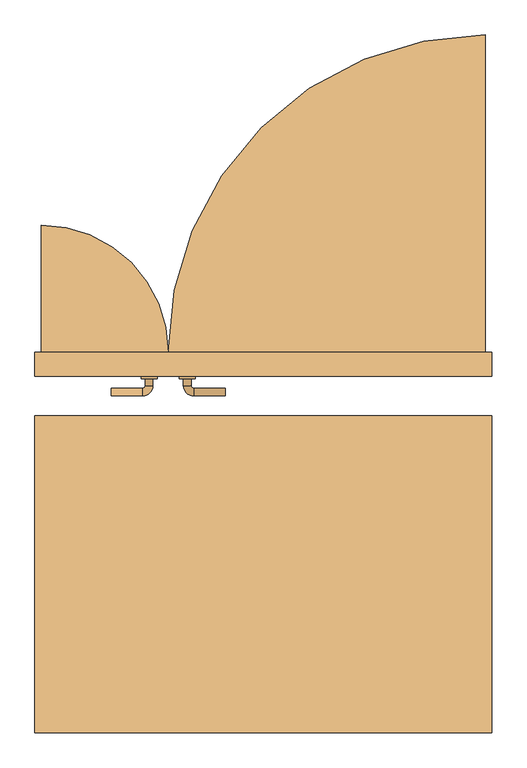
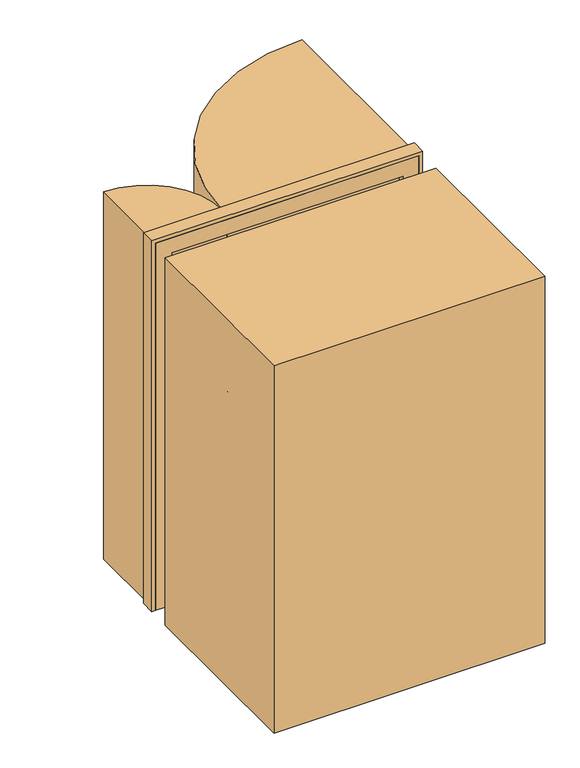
"""IFC4 building model written with IfcOpenShell, lengths in millimetres: door geometry, Дверь_Стальная_Наружная_Двупольная_ГОСТ_31173-2016 : 1410 х 2070(h)_Л_Обычная_с Порогом."""

from ifc_helpers import new_model, si_unit, point, frame, frame_2d, origin, origin_with_axes, place, context, project, spatial, polyline, circle_curve, ellipse_curve, trimmed, segment, composite_curve, outline, extrude, faceted_brep, source, transform, mapped, element, save
from ifc_brep_helpers import plane_surface, cylinder_surface, revolved_surface, advanced_brep


def door_54bb3564(model_context):
    return source(origin(), model_context, "Body", "SolidModel", [
        extrude(outline(composite_curve([segment(trimmed(circle_curve(frame_2d((-700.0, 100.0)), 400.0), [point((-700.0, 500.0))], [point((-300.0, 100.0))], False, "CARTESIAN"), True, "CONTINUOUS"), segment(polyline([(-300.0, 100.0), (-700.0, 100.0), (-700.0, 500.0)]), True, "CONTINUOUS")], self_intersect=False)), origin_with_axes(), (0.0, 0.0, 1.0), 2062.0),
        extrude(outline(composite_curve([segment(polyline([(700.0, 1100.0), (700.0, 100.0), (-300.0, 100.0)]), True, "CONTINUOUS"), segment(trimmed(circle_curve(frame_2d((700.0, 100.0)), 1000.0), [point((-300.0, 100.0))], [point((700.0, 1100.0))], False, "CARTESIAN"), True, "CONTINUOUS")], self_intersect=False)), origin_with_axes(), (0.0, 0.0, 1.0), 2062.0),
        extrude(outline(polyline([(-720.0, -1100.0), (-720.0, -100.0), (720.0, -100.0), (720.0, -1100.0), (-720.0, -1100.0)])), origin_with_axes(), (0.0, 0.0, 1.0), 2062.0),
        advanced_brep(
        [(-480.0, 162.0, 1000.0), (-480.0, 138.0, 1000.0), (-380.0, 138.0, 1000.0), (-380.0, 162.0, 1000.0), (-372.0, 130.0, 1000.0), (-348.0, 130.0, 1000.0), (-348.0, -5.0, 1000.0), (-348.0, 17.0, 1000.0), (-372.0, 17.0, 1000.0), (-372.0, -5.0, 1000.0), (-372.0, 108.0, 1000.0), (-348.0, 108.0, 1000.0), (-380.0, -13.0, 1000.0), (-380.0, -37.0, 1000.0), (-480.0, -37.0, 1000.0), (-480.0, -13.0, 1000.0), (-335.0, 108.0, 1000.0), (-385.0, 108.0, 1000.0), (-335.0, 17.0, 1000.0), (-385.0, 17.0, 1000.0)],
        [
            (0, 1, circle_curve(frame((-480.0, 150.0, 1000.0), z_axis=(-1.0, 0.0, 0.0), x_axis=(0.0, -1.0, 0.0)), 12.0)),
            (1, 0, circle_curve(frame((-480.0, 150.0, 1000.0), z_axis=(-1.0, 0.0, 0.0), x_axis=(0.0, -1.0, 0.0)), 12.0)),
            (1, 2),
            (2, 3, circle_curve(frame((-380.0, 150.0, 1000.0), z_axis=(-1.0, 0.0, 0.0), x_axis=(0.0, -1.0, 0.0)), 12.0)),
            (3, 0),
            (3, 2, circle_curve(frame((-380.0, 150.0, 1000.0), z_axis=(-1.0, 0.0, 0.0), x_axis=(0.0, -1.0, 0.0)), 12.0)),
            (2, 4, circle_curve(frame((-380.0, 130.0, 1000.0), z_axis=(0.0, 0.0, -1.0), x_axis=(0.0, 1.0, 0.0)), 8.0)),
            (4, 5, circle_curve(frame((-360.0, 130.0, 1000.0), z_axis=(0.0, 1.0, 0.0), x_axis=(-1.0, 0.0, 0.0)), 12.0)),
            (5, 3, circle_curve(frame((-380.0, 130.0, 1000.0), z_axis=(0.0, 0.0, 1.0), x_axis=(0.0, 1.0, 0.0)), 32.0)),
            (5, 4, circle_curve(frame((-360.0, 130.0, 1000.0), z_axis=(0.0, 1.0, 0.0), x_axis=(-1.0, 0.0, 0.0)), 12.0)),
            (6, 7),
            (7, 8, circle_curve(frame((-360.0, 17.0, 1000.0), z_axis=(0.0, -1.0, 0.0), x_axis=(-1.0, 0.0, 0.0)), 12.0)),
            (8, 9),
            (9, 6, circle_curve(frame((-360.0, -5.0, 1000.0), z_axis=(0.0, 1.0, 0.0), x_axis=(-1.0, 0.0, 0.0)), 12.0)),
            (4, 10),
            (10, 11, circle_curve(frame((-360.0, 108.0, 1000.0), z_axis=(0.0, 1.0, 0.0), x_axis=(-1.0, 0.0, 0.0)), 12.0)),
            (11, 5),
            (11, 10, circle_curve(frame((-360.0, 108.0, 1000.0), z_axis=(0.0, 1.0, 0.0), x_axis=(-1.0, 0.0, 0.0)), 12.0)),
            (8, 7, circle_curve(frame((-360.0, 17.0, 1000.0), z_axis=(0.0, -1.0, 0.0), x_axis=(-1.0, 0.0, 0.0)), 12.0)),
            (6, 9, circle_curve(frame((-360.0, -5.0, 1000.0), z_axis=(0.0, 1.0, 0.0), x_axis=(-1.0, 0.0, 0.0)), 12.0)),
            (9, 12, circle_curve(frame((-380.0, -5.0, 1000.0), z_axis=(0.0, 0.0, -1.0), x_axis=(1.0, 0.0, 0.0)), 8.0)),
            (12, 13, circle_curve(frame((-380.0, -25.0, 1000.0), z_axis=(1.0, 0.0, 0.0), x_axis=(0.0, 1.0, 0.0)), 12.0)),
            (13, 6, circle_curve(frame((-380.0, -5.0, 1000.0), z_axis=(0.0, 0.0, 1.0), x_axis=(1.0, 0.0, 0.0)), 32.0)),
            (13, 12, circle_curve(frame((-380.0, -25.0, 1000.0), z_axis=(1.0, 0.0, 0.0), x_axis=(0.0, 1.0, 0.0)), 12.0)),
            (14, 15, circle_curve(frame((-480.0, -25.0, 1000.0), z_axis=(-1.0, 0.0, 0.0), x_axis=(0.0, 1.0, 0.0)), 12.0)),
            (15, 14, circle_curve(frame((-480.0, -25.0, 1000.0), z_axis=(-1.0, 0.0, 0.0), x_axis=(0.0, 1.0, 0.0)), 12.0)),
            (12, 15),
            (14, 13),
            (16, 17, circle_curve(frame((-360.0, 108.0, 1000.0), z_axis=(0.0, 1.0, 0.0), x_axis=(-1.0, 0.0, 0.0)), 25.0)),
            (17, 16, circle_curve(frame((-360.0, 108.0, 1000.0), z_axis=(0.0, 1.0, 0.0), x_axis=(-1.0, 0.0, 0.0)), 25.0)),
            (18, 19, circle_curve(frame((-360.0, 17.0, 1000.0), z_axis=(0.0, -1.0, 0.0), x_axis=(-1.0, 0.0, 0.0)), 25.0)),
            (19, 18, circle_curve(frame((-360.0, 17.0, 1000.0), z_axis=(0.0, -1.0, 0.0), x_axis=(-1.0, 0.0, 0.0)), 25.0)),
            (16, 18),
            (19, 17),
        ],
        [
            plane_surface(frame((-480.0, 150.0, 1000.0), z_axis=(-1.0, 0.0, 0.0), x_axis=(0.0, 0.0, 1.0))),
            cylinder_surface(frame((-480.0, 150.0, 1000.0), z_axis=(-1.0, 0.0, 0.0), x_axis=(0.0, -1.0, 0.0)), 12.0),
            revolved_surface(trimmed(ellipse_curve(frame((-380.0, 150.0, 1000.0), z_axis=(1.0, 0.0, 0.0), x_axis=(0.0, -1.0, 0.0)), 12.0, 12.0), [point((-380.0, 162.0, 1000.0))], [point((-380.0, 138.0, 1000.0))], True, "CARTESIAN"), (-380.0, 130.0, 1000.0), (0.0, 0.0, 1.0)),
            revolved_surface(trimmed(ellipse_curve(frame((-380.0, 150.0, 1000.0), z_axis=(1.0, 0.0, 0.0), x_axis=(0.0, -1.0, 0.0)), 12.0, 12.0), [point((-380.0, 138.0, 1000.0))], [point((-380.0, 162.0, 1000.0))], True, "CARTESIAN"), (-380.0, 130.0, 1000.0), (0.0, 0.0, 1.0)),
            cylinder_surface(frame((-360.0, 130.0, 1000.0), z_axis=(0.0, 1.0, 0.0), x_axis=(-1.0, 0.0, 0.0)), 12.0),
            revolved_surface(trimmed(ellipse_curve(frame((-360.0, -5.0, 1000.0), z_axis=(0.0, -1.0, 0.0), x_axis=(-1.0, 0.0, 0.0)), 12.0, 12.0), [point((-348.0, -5.0, 1000.0))], [point((-372.0, -5.0, 1000.0))], True, "CARTESIAN"), (-380.0, -5.0, 1000.0), (0.0, 0.0, 1.0)),
            revolved_surface(trimmed(ellipse_curve(frame((-360.0, -5.0, 1000.0), z_axis=(0.0, -1.0, 0.0), x_axis=(-1.0, 0.0, 0.0)), 12.0, 12.0), [point((-372.0, -5.0, 1000.0))], [point((-348.0, -5.0, 1000.0))], True, "CARTESIAN"), (-380.0, -5.0, 1000.0), (0.0, 0.0, 1.0)),
            plane_surface(frame((-480.0, -25.0, 1000.0), z_axis=(-1.0, 0.0, 0.0), x_axis=(0.0, 0.0, 1.0))),
            cylinder_surface(frame((-380.0, -25.0, 1000.0), z_axis=(1.0, 0.0, 0.0), x_axis=(0.0, 1.0, 0.0)), 12.0),
            plane_surface(frame((-385.0, 108.0, 1000.0), z_axis=(0.0, 1.0, 0.0), x_axis=(0.0, 0.0, -1.0))),
            plane_surface(frame((-385.0, 17.0, 1000.0), z_axis=(0.0, -1.0, 0.0), x_axis=(0.0, 0.0, 1.0))),
            cylinder_surface(frame((-360.0, 108.0, 1000.0), z_axis=(0.0, -1.0, 0.0), x_axis=(-1.0, 0.0, 0.0)), 25.0),
        ],
        [
            (0, [[1, 2]]),
            (1, [[3, 4, 5, -2]]),
            (1, [[-5, 6, -3, -1]]),
            (2, [[7, 8, 9, -4]]),
            (3, [[-9, 10, -7, -6]]),
            (4, [[11, 12, 13, 14]]),
            (4, [[15, 16, 17, -8]]),
            (4, [[-17, 18, -15, -10]]),
            (4, [[-13, 19, -11, 20]]),
            (5, [[21, 22, 23, -14]]),
            (6, [[-23, 24, -21, -20]]),
            (7, [[25, 26]]),
            (8, [[27, -25, 28, -22]]),
            (8, [[-28, -26, -27, -24]]),
            (9, [[29, 30], [-18, -16]]),
            (10, [[31, 32], [-19, -12]]),
            (11, [[33, -32, 34, -29]]),
            (11, [[-34, -31, -33, -30]]),
        ],
    ),
        extrude(outline(composite_curve([segment(trimmed(circle_curve(frame_2d((900.0, -360.0)), 25.0), [point((900.0, -335.0))], [point((900.0, -385.0))], False, "CARTESIAN"), True, "CONTINUOUS"), segment(trimmed(circle_curve(frame_2d((900.0, -360.0)), 25.0), [point((900.0, -385.0))], [point((900.0, -335.0))], False, "CARTESIAN"), True, "CONTINUOUS")], self_intersect=False)), frame((0.0, 17.0, 0.0), z_axis=(0.0, 1.0, 0.0), x_axis=(0.0, 0.0, 1.0)), (0.0, 0.0, 1.0), 91.0),
        advanced_brep(
        [(-120.0, 162.0, 1000.0), (-120.0, 138.0, 1000.0), (-220.0, 162.0, 1000.0), (-220.0, 138.0, 1000.0), (-252.0, 130.0, 1000.0), (-228.0, 130.0, 1000.0), (-252.0, 108.0, 1000.0), (-228.0, 108.0, 1000.0), (-252.0, -5.0, 1000.0), (-228.0, -5.0, 1000.0), (-228.0, 17.0, 1000.0), (-252.0, 17.0, 1000.0), (-220.0, -37.0, 1000.0), (-220.0, -13.0, 1000.0), (-120.0, -37.0, 1000.0), (-120.0, -13.0, 1000.0), (-265.0, 108.0, 1000.0), (-215.0, 108.0, 1000.0), (-265.0, 17.0, 1000.0), (-215.0, 17.0, 1000.0)],
        [
            (0, 1, circle_curve(frame((-120.0, 150.0, 1000.0), z_axis=(1.0, 0.0, 0.0), x_axis=(0.0, -1.0, 0.0)), 12.0)),
            (1, 0, circle_curve(frame((-120.0, 150.0, 1000.0), z_axis=(1.0, 0.0, 0.0), x_axis=(0.0, -1.0, 0.0)), 12.0)),
            (0, 2),
            (2, 3, circle_curve(frame((-220.0, 150.0, 1000.0), z_axis=(1.0, 0.0, 0.0), x_axis=(0.0, -1.0, 0.0)), 12.0)),
            (3, 1),
            (3, 2, circle_curve(frame((-220.0, 150.0, 1000.0), z_axis=(1.0, 0.0, 0.0), x_axis=(0.0, -1.0, 0.0)), 12.0)),
            (2, 4, circle_curve(frame((-220.0, 130.0, 1000.0), z_axis=(0.0, 0.0, 1.0), x_axis=(0.0, 1.0, 0.0)), 32.0)),
            (4, 5, circle_curve(frame((-240.0, 130.0, 1000.0), z_axis=(0.0, 1.0, 0.0), x_axis=(1.0, 0.0, 0.0)), 12.0)),
            (5, 3, circle_curve(frame((-220.0, 130.0, 1000.0), z_axis=(0.0, 0.0, -1.0), x_axis=(0.0, 1.0, 0.0)), 8.0)),
            (5, 4, circle_curve(frame((-240.0, 130.0, 1000.0), z_axis=(0.0, 1.0, 0.0), x_axis=(1.0, 0.0, 0.0)), 12.0)),
            (4, 6),
            (6, 7, circle_curve(frame((-240.0, 108.0, 1000.0), z_axis=(0.0, 1.0, 0.0), x_axis=(1.0, 0.0, 0.0)), 12.0)),
            (7, 5),
            (8, 9, circle_curve(frame((-240.0, -5.0, 1000.0), z_axis=(0.0, 1.0, 0.0), x_axis=(1.0, 0.0, 0.0)), 12.0)),
            (9, 10),
            (10, 11, circle_curve(frame((-240.0, 17.0, 1000.0), z_axis=(0.0, -1.0, 0.0), x_axis=(1.0, 0.0, 0.0)), 12.0)),
            (11, 8),
            (7, 6, circle_curve(frame((-240.0, 108.0, 1000.0), z_axis=(0.0, 1.0, 0.0), x_axis=(1.0, 0.0, 0.0)), 12.0)),
            (9, 8, circle_curve(frame((-240.0, -5.0, 1000.0), z_axis=(0.0, 1.0, 0.0), x_axis=(1.0, 0.0, 0.0)), 12.0)),
            (11, 10, circle_curve(frame((-240.0, 17.0, 1000.0), z_axis=(0.0, -1.0, 0.0), x_axis=(1.0, 0.0, 0.0)), 12.0)),
            (8, 12, circle_curve(frame((-220.0, -5.0, 1000.0), z_axis=(0.0, 0.0, 1.0), x_axis=(-1.0, 0.0, 0.0)), 32.0)),
            (12, 13, circle_curve(frame((-220.0, -25.0, 1000.0), z_axis=(-1.0, 0.0, 0.0), x_axis=(0.0, 1.0, 0.0)), 12.0)),
            (13, 9, circle_curve(frame((-220.0, -5.0, 1000.0), z_axis=(0.0, 0.0, -1.0), x_axis=(-1.0, 0.0, 0.0)), 8.0)),
            (13, 12, circle_curve(frame((-220.0, -25.0, 1000.0), z_axis=(-1.0, 0.0, 0.0), x_axis=(0.0, 1.0, 0.0)), 12.0)),
            (14, 15, circle_curve(frame((-120.0, -25.0, 1000.0), z_axis=(1.0, 0.0, 0.0), x_axis=(0.0, 1.0, 0.0)), 12.0)),
            (15, 14, circle_curve(frame((-120.0, -25.0, 1000.0), z_axis=(1.0, 0.0, 0.0), x_axis=(0.0, 1.0, 0.0)), 12.0)),
            (12, 14),
            (15, 13),
            (16, 17, circle_curve(frame((-240.0, 108.0, 1000.0), z_axis=(0.0, 1.0, 0.0), x_axis=(1.0, 0.0, 0.0)), 25.0)),
            (17, 16, circle_curve(frame((-240.0, 108.0, 1000.0), z_axis=(0.0, 1.0, 0.0), x_axis=(1.0, 0.0, 0.0)), 25.0)),
            (18, 19, circle_curve(frame((-240.0, 17.0, 1000.0), z_axis=(0.0, -1.0, 0.0), x_axis=(1.0, 0.0, 0.0)), 25.0)),
            (19, 18, circle_curve(frame((-240.0, 17.0, 1000.0), z_axis=(0.0, -1.0, 0.0), x_axis=(1.0, 0.0, 0.0)), 25.0)),
            (17, 19),
            (18, 16),
        ],
        [
            plane_surface(frame((-120.0, 150.0, 1000.0), z_axis=(1.0, 0.0, 0.0), x_axis=(0.0, 0.0, 1.0))),
            cylinder_surface(frame((-120.0, 150.0, 1000.0), z_axis=(1.0, 0.0, 0.0), x_axis=(0.0, -1.0, 0.0)), 12.0),
            revolved_surface(trimmed(ellipse_curve(frame((-220.0, 150.0, 1000.0), z_axis=(1.0, 0.0, 0.0), x_axis=(0.0, -1.0, 0.0)), 12.0, 12.0), [point((-220.0, 162.0, 1000.0))], [point((-220.0, 138.0, 1000.0))], True, "CARTESIAN"), (-220.0, 130.0, 1000.0), (0.0, 0.0, 1.0)),
            revolved_surface(trimmed(ellipse_curve(frame((-220.0, 150.0, 1000.0), z_axis=(1.0, 0.0, 0.0), x_axis=(0.0, -1.0, 0.0)), 12.0, 12.0), [point((-220.0, 138.0, 1000.0))], [point((-220.0, 162.0, 1000.0))], True, "CARTESIAN"), (-220.0, 130.0, 1000.0), (0.0, 0.0, 1.0)),
            cylinder_surface(frame((-240.0, 130.0, 1000.0), z_axis=(0.0, 1.0, 0.0), x_axis=(1.0, 0.0, 0.0)), 12.0),
            revolved_surface(trimmed(ellipse_curve(frame((-240.0, -5.0, 1000.0), z_axis=(0.0, 1.0, 0.0), x_axis=(1.0, 0.0, 0.0)), 12.0, 12.0), [point((-252.0, -5.0, 1000.0))], [point((-228.0, -5.0, 1000.0))], True, "CARTESIAN"), (-220.0, -5.0, 1000.0), (0.0, 0.0, 1.0)),
            revolved_surface(trimmed(ellipse_curve(frame((-240.0, -5.0, 1000.0), z_axis=(0.0, 1.0, 0.0), x_axis=(1.0, 0.0, 0.0)), 12.0, 12.0), [point((-228.0, -5.0, 1000.0))], [point((-252.0, -5.0, 1000.0))], True, "CARTESIAN"), (-220.0, -5.0, 1000.0), (0.0, 0.0, 1.0)),
            plane_surface(frame((-120.0, -25.0, 1000.0), z_axis=(1.0, 0.0, 0.0), x_axis=(0.0, 0.0, 1.0))),
            cylinder_surface(frame((-220.0, -25.0, 1000.0), z_axis=(-1.0, 0.0, 0.0), x_axis=(0.0, 1.0, 0.0)), 12.0),
            plane_surface(frame((-215.0, 108.0, 1000.0), z_axis=(0.0, 1.0, 0.0), x_axis=(0.0, 0.0, -1.0))),
            plane_surface(frame((-215.0, 17.0, 1000.0), z_axis=(0.0, -1.0, 0.0), x_axis=(0.0, 0.0, 1.0))),
            cylinder_surface(frame((-240.0, 108.0, 1000.0), z_axis=(0.0, -1.0, 0.0), x_axis=(1.0, 0.0, 0.0)), 25.0),
        ],
        [
            (0, [[1, 2]]),
            (1, [[-1, 3, 4, 5]]),
            (1, [[-2, -5, 6, -3]]),
            (2, [[-4, 7, 8, 9]]),
            (3, [[-6, -9, 10, -7]]),
            (4, [[-8, 11, 12, 13]]),
            (4, [[14, 15, 16, 17]]),
            (4, [[-10, -13, 18, -11]]),
            (4, [[19, -17, 20, -15]]),
            (5, [[-14, 21, 22, 23]]),
            (6, [[-19, -23, 24, -21]]),
            (7, [[25, 26]]),
            (8, [[-22, 27, -26, 28]]),
            (8, [[-24, -28, -25, -27]]),
            (9, [[29, 30], [-12, -18]]),
            (10, [[31, 32], [-16, -20]]),
            (11, [[-30, 33, -31, 34]]),
            (11, [[-29, -34, -32, -33]]),
        ],
    ),
        extrude(outline(composite_curve([segment(trimmed(circle_curve(frame_2d((900.0, -240.0)), 25.0), [point((900.0, -265.0))], [point((900.0, -215.0))], False, "CARTESIAN"), True, "CONTINUOUS"), segment(trimmed(circle_curve(frame_2d((900.0, -240.0)), 25.0), [point((900.0, -215.0))], [point((900.0, -265.0))], False, "CARTESIAN"), True, "CONTINUOUS")], self_intersect=False)), frame((0.0, 17.0, 0.0), z_axis=(0.0, 1.0, 0.0), x_axis=(0.0, 0.0, 1.0)), (0.0, 0.0, 1.0), 91.0),
        faceted_brep([(-700.0, 25.0, 0.0), (-700.0, 100.0, 0.0), (-625.0, 100.0, 0.0), (-625.0, 60.0, 0.0), (-615.0, 60.0, 0.0), (-615.0, 25.0, 0.0), (-700.0, 25.0, 2062.0), (-700.0, 100.0, 2062.0), (700.0, 100.0, 2062.0), (700.0, 100.0, 0.0), (625.0, 100.0, 0.0), (625.0, 100.0, 1987.0), (-625.0, 100.0, 1987.0), (-625.0, 60.0, 1987.0), (625.0, 60.0, 1987.0), (625.0, 60.0, 0.0), (615.0, 60.0, 0.0), (615.0, 60.0, 1977.0), (-615.0, 60.0, 1977.0), (-615.0, 25.0, 1977.0), (615.0, 25.0, 1977.0), (615.0, 25.0, 0.0), (700.0, 25.0, 0.0), (700.0, 25.0, 2062.0)], [[[0, 1, 2, 3, 4, 5]], [[1, 0, 6, 7]], [[2, 1, 7, 8, 9, 10, 11, 12]], [[3, 2, 12, 13]], [[4, 3, 13, 14, 15, 16, 17, 18]], [[5, 4, 18, 19]], [[0, 5, 19, 20, 21, 22, 23, 6]], [[7, 6, 23, 8]], [[13, 12, 11, 14]], [[19, 18, 17, 20]], [[22, 21, 16, 15, 10, 9]], [[8, 23, 22, 9]], [[14, 11, 10, 15]], [[20, 17, 16, 21]]]),
        extrude(outline(polyline([(0.0, 720.0), (2082.0, 720.0), (2082.0, -720.0), (0.0, -720.0), (0.0, -700.0), (2062.0, -700.0), (2062.0, 700.0), (0.0, 700.0), (0.0, 720.0)])), frame((0.0, 25.0, 0.0), z_axis=(0.0, 1.0, 0.0), x_axis=(0.0, 0.0, 1.0)), (0.0, 0.0, 1.0), 75.0),
        extrude(outline(polyline([(-625.0, 60.0), (-625.0, 100.0), (625.0, 100.0), (625.0, 60.0), (615.0, 60.0), (615.0, 25.0), (-615.0, 25.0), (-615.0, 60.0), (-625.0, 60.0)])), origin_with_axes(), (0.0, 0.0, 1.0), 15.0),
        extrude(outline(polyline([(-625.0, 100.0), (-300.0, 100.0), (-300.0, 60.0), (-625.0, 60.0), (-625.0, 100.0)])), frame((0.0, 0.0, 15.0), z_axis=(0.0, 0.0, 1.0), x_axis=(1.0, 0.0, 0.0)), (0.0, 0.0, 1.0), 1972.0),
        extrude(outline(polyline([(625.0, 100.0), (625.0, 60.0), (-300.0, 60.0), (-300.0, 100.0), (625.0, 100.0)])), frame((0.0, 0.0, 15.0), z_axis=(0.0, 0.0, 1.0), x_axis=(1.0, 0.0, 0.0)), (0.0, 0.0, 1.0), 1972.0),
    ])


if __name__ == "__main__":
    model = new_model("IFC4")
    model_context = context("Model", 3, world=origin())
    ifc_project = project(units=[si_unit("LENGTHUNIT", "METRE", prefix="MILLI")], contexts=[model_context])
    site = spatial("IfcSite", under=ifc_project)
    building = spatial("IfcBuilding", under=site)
    placement = place(None, origin())
    door_shape = door_54bb3564(model_context)
    element("IfcDoor", 1, ObjectType="Дверь_Стальная_Наружная_Двупольная_ГОСТ_31173-2016 : 1410 х 2070(h)_Л_Обычная_с Порогом", at=placement, inside=building, context=model_context, shape_type="MappedRepresentation", body=[
        mapped(door_shape, transform((0.0, 0.0, 0.0), x_axis=(1.0, 0.0, 0.0), y_axis=(0.0, 1.0, 0.0), z_axis=(0.0, 0.0, 1.0))),
    ])
    save(model, "model.ifc")
